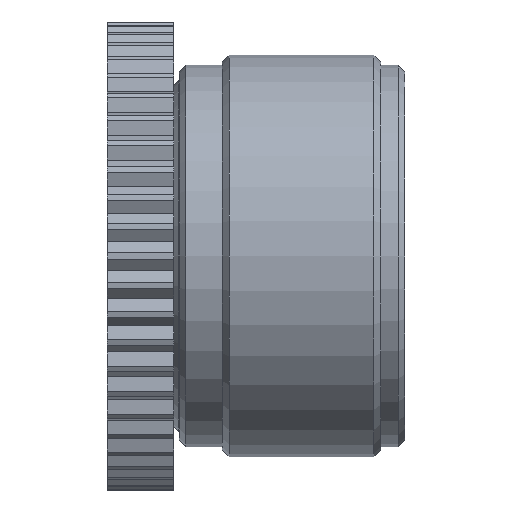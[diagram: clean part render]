
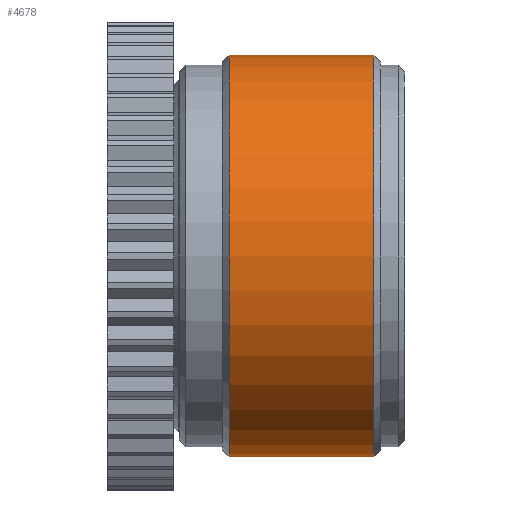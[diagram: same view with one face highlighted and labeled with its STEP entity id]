
A CAD part, front view. The second image highlights one B-rep face of the part: STEP entity #4678.
In plain terms, the highlighted cylindrical face has radius 6 mm (diameter 12 mm), a full revolution.
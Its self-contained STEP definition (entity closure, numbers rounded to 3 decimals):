
#53=CYLINDRICAL_SURFACE('',#5149,6.);
#358=FACE_OUTER_BOUND('',#651,.T.);
#651=EDGE_LOOP('',(#3484,#3485,#3486,#3487,#3488));
#941=CIRCLE('',#5148,6.);
#942=CIRCLE('',#5150,6.);
#943=CIRCLE('',#5151,6.);
#1160=LINE('',#7367,#1617);
#1617=VECTOR('',#5970,6.);
#2089=VERTEX_POINT('',#7359);
#2090=VERTEX_POINT('',#7363);
#2091=VERTEX_POINT('',#7364);
#2607=EDGE_CURVE('',#2089,#2089,#941,.T.);
#2609=EDGE_CURVE('',#2090,#2091,#942,.T.);
#2610=EDGE_CURVE('',#2091,#2090,#943,.T.);
#2611=EDGE_CURVE('',#2091,#2089,#1160,.T.);
#3484=ORIENTED_EDGE('',*,*,#2609,.F.);
#3485=ORIENTED_EDGE('',*,*,#2610,.F.);
#3486=ORIENTED_EDGE('',*,*,#2611,.T.);
#3487=ORIENTED_EDGE('',*,*,#2607,.F.);
#3488=ORIENTED_EDGE('',*,*,#2611,.F.);
#4678=ADVANCED_FACE('',(#358),#53,.T.);
#5148=AXIS2_PLACEMENT_3D('',#7360,#5961,#5962);
#5149=AXIS2_PLACEMENT_3D('',#7362,#5964,#5965);
#5150=AXIS2_PLACEMENT_3D('',#7365,#5966,#5967);
#5151=AXIS2_PLACEMENT_3D('',#7366,#5968,#5969);
#5961=DIRECTION('center_axis',(1.,0.,0.));
#5962=DIRECTION('ref_axis',(0.,1.,0.));
#5964=DIRECTION('center_axis',(-1.,0.,0.));
#5965=DIRECTION('ref_axis',(0.,1.,0.));
#5966=DIRECTION('center_axis',(-1.,0.,0.));
#5967=DIRECTION('ref_axis',(0.,-1.,0.));
#5968=DIRECTION('center_axis',(-1.,0.,0.));
#5969=DIRECTION('ref_axis',(0.,-1.,0.));
#5970=DIRECTION('',(1.,0.,0.));
#7359=CARTESIAN_POINT('',(1900.251,867.559,0.));
#7360=CARTESIAN_POINT('Origin',(1900.251,873.559,0.));
#7362=CARTESIAN_POINT('Origin',(1898.086,873.559,0.));
#7363=CARTESIAN_POINT('',(1895.922,879.559,0.));
#7364=CARTESIAN_POINT('',(1895.922,867.559,0.));
#7365=CARTESIAN_POINT('Origin',(1895.922,873.559,0.));
#7366=CARTESIAN_POINT('Origin',(1895.922,873.559,0.));
#7367=CARTESIAN_POINT('',(1898.086,867.559,0.));
